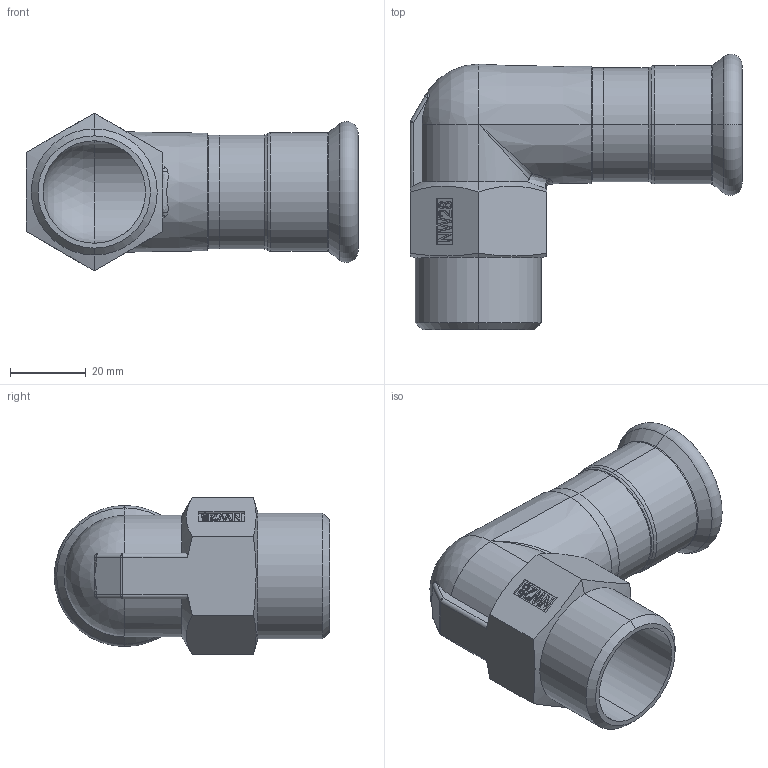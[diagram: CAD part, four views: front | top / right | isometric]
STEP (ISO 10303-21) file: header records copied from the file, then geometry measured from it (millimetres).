
FILE_DESCRIPTION (( 'STEP AP203' ), '1' );
FILE_NAME ('GDA5274.STEP', '2019-01-15T05:34:05', ( '' ), ( '' ), 'SwSTEP 2.0', 'SolidWorks 2015', '' );
FILE_SCHEMA (( 'CONFIG_CONTROL_DESIGN' ));
Length unit declared in the file: millimetre
Products named in the file (3): T-ｉ-01-28; GDA5274; OD28｡ﾁ1
Assembly tree (2 placements, depth 2):
  GDA5274
    OD28｡ﾁ1
    T-ｉ-01-28
Bounding box: 87.5 x 72.6 x 41.57 mm (x, y, z)
Volume: 31797.4 mm3; surface area: 24739.9 mm2
Topology: 2 solids, 2 shells, 156 faces, 374 edges, 225 vertices
Faces by surface type: plane 54, bspline 31, cylinder 30, cone 19, torus 16, sphere 6
Entity records: 6524 total; most frequent: CARTESIAN_POINT 2851, ORIENTED_EDGE 736, DIRECTION 637, EDGE_CURVE 368, AXIS2_PLACEMENT_3D 230, VERTEX_POINT 224, LINE 177, VECTOR 177
